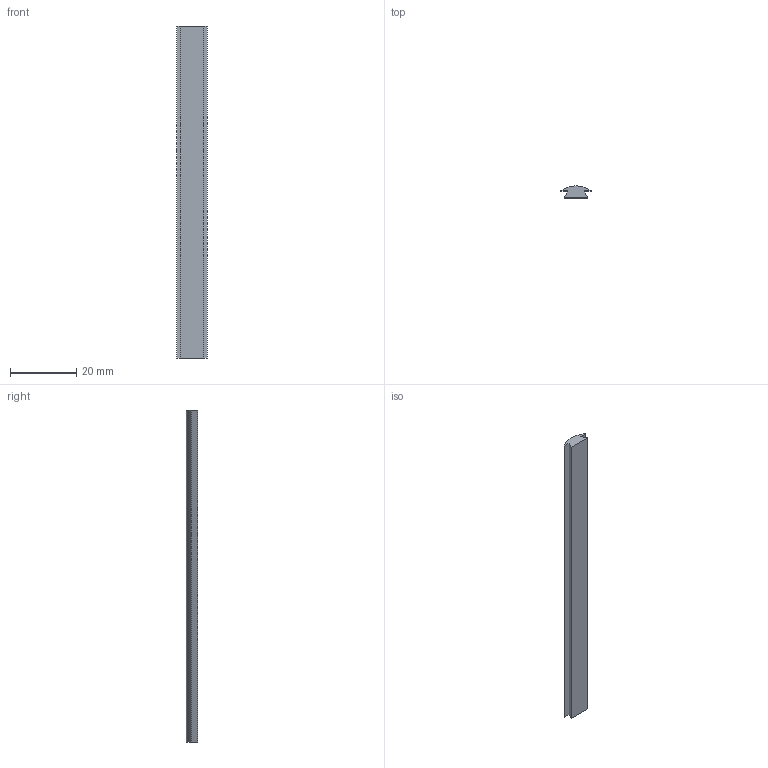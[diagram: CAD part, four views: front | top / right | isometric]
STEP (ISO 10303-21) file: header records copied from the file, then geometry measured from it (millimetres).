
FILE_DESCRIPTION (( 'STEP AP203' ), '1' );
FILE_NAME ('F021103.STEP', '2020-10-26T15:57:38', ( 'Localadmin' ), ( 'Microsoft' ), 'SwSTEP 2.0', 'SolidWorks 2018', '' );
FILE_SCHEMA (( 'CONFIG_CONTROL_DESIGN' ));
Length unit declared in the file: millimetre
Products named in the file (1): F021103
Bounding box: 9.2 x 3.5 x 100 mm (x, y, z)
Volume: 2139.3 mm3; surface area: 2593.9 mm2
Topology: 1 solids, 1 shells, 8 faces, 18 edges, 12 vertices
Faces by surface type: plane 7, cylinder 1
Entity records: 301 total; most frequent: CARTESIAN_POINT 39, DIRECTION 38, ORIENTED_EDGE 36, EDGE_CURVE 18, VECTOR 16, LINE 16, VERTEX_POINT 12, AXIS2_PLACEMENT_3D 11
